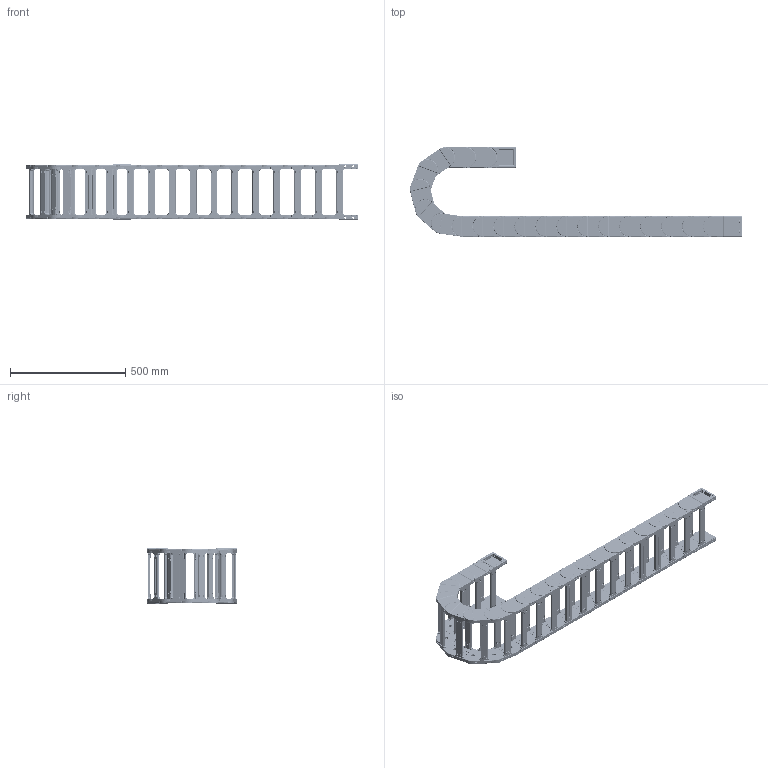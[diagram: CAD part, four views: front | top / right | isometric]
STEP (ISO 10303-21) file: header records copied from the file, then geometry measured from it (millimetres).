
FILE_DESCRIPTION (( 'STEP AP214' ), '1' );
FILE_NAME ('J60Q.1.200S-3D賦凳芞.STEP', '2019-01-10T01:13:48', ( 'Sky123.Org' ), ( 'Sky123.Org' ), 'SwSTEP 2.0', 'SolidWorks 2017', '' );
FILE_SCHEMA (( 'AUTOMOTIVE_DESIGN' ));
Length unit declared in the file: millimetre
Products named in the file (10): J60Q.1-源諉芛-N; J60Q.1.100S-桥式-单节主体; J60-H80-100結え; J60Q.1-翋极-R-2018.3.30; J60Q.1.100S-桥式-外接头; J60Q.1.200S-3D賦凳芞; J60Q.1-源諉芛-W; J60Q.1-翋极-L-2018.3.30; J60Q.1.100S-桥式-内接头; 臏簽12X9
Assembly tree (57 placements, depth 3):
  J60Q.1.200S-3D賦凳芞
    J60Q.1.100S-桥式-单节主体  x19
      J60Q.1-翋极-L-2018.3.30
      J60Q.1-翋极-R-2018.3.30
      J60-H80-100結え
    J60Q.1.100S-桥式-内接头
      J60Q.1-源諉芛-N  x2
      J60-H80-100結え  x2
      臏簽12X9  x12
    J60Q.1.100S-桥式-外接头
      J60Q.1-源諉芛-W  x2
      J60-H80-100結え  x2
      臏簽12X9  x12
Bounding box: 1442.11 x 388.53 x 240 mm (x, y, z)
Volume: 7925625.5 mm3; surface area: 2567223.4 mm2
Topology: 108 solids, 148 shells, 19975 faces, 52506 edges, 33104 vertices
Faces by surface type: plane 9891, cylinder 6288, bspline 1518, torus 1288, sphere 778, cone 212
Entity records: 36164 total; most frequent: CARTESIAN_POINT 8515, ORIENTED_EDGE 4950, DIRECTION 4876, EDGE_CURVE 2475, AXIS2_PLACEMENT_3D 1648, VERTEX_POINT 1583, LINE 1580, VECTOR 1580
